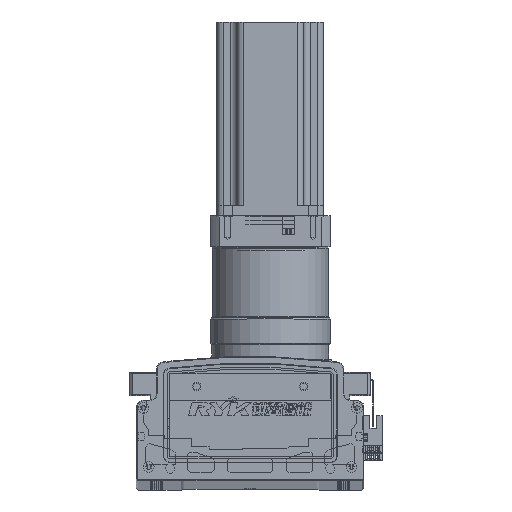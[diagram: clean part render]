
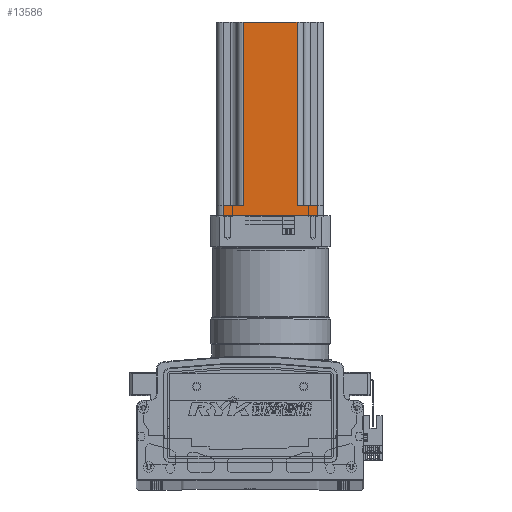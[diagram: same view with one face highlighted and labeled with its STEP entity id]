
A CAD part, top view. The second image highlights one B-rep face of the part: STEP entity #13586.
In plain terms, the highlighted planar face has unit normal (0, 0, 1) as drawn and (0, -1, 0) by its records, which use the part's own axes.
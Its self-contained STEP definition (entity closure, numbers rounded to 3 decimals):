
#13586 = ADVANCED_FACE ( 'NONE', ( #93398 ), #68294, .F. ) ;
#18983 = AXIS2_PLACEMENT_3D ( 'NONE', #68308, #68296, #68332 ) ;
#32212 = ORIENTED_EDGE ( 'NONE', *, *, #107932, .T. ) ;
#32220 = ORIENTED_EDGE ( 'NONE', *, *, #107974, .T. ) ;
#32252 = ORIENTED_EDGE ( 'NONE', *, *, #107946, .F. ) ;
#32297 = ORIENTED_EDGE ( 'NONE', *, *, #107963, .T. ) ;
#32315 = ORIENTED_EDGE ( 'NONE', *, *, #107923, .T. ) ;
#32328 = ORIENTED_EDGE ( 'NONE', *, *, #107935, .F. ) ;
#32332 = ORIENTED_EDGE ( 'NONE', *, *, #107978, .T. ) ;
#32344 = ORIENTED_EDGE ( 'NONE', *, *, #107972, .F. ) ;
#56303 = EDGE_LOOP ( 'NONE', ( #32252, #32212, #32315, #32220, #32328, #32332, #32344, #32297 ) ) ;
#68294 = PLANE ( 'NONE',  #18983 ) ;
#68296 = DIRECTION ( 'NONE',  ( 0., 1., 0. ) ) ;
#68308 = CARTESIAN_POINT ( 'NONE',  ( -87.587, -40.37, 145. ) ) ;
#68332 = DIRECTION ( 'NONE',  ( -1., 0., 0. ) ) ;
#78097 = DIRECTION ( 'NONE',  ( 1., 0., 0. ) ) ;
#78144 = CARTESIAN_POINT ( 'NONE',  ( -87.587, -40.37, 8. ) ) ;
#78213 = CARTESIAN_POINT ( 'NONE',  ( -67.587, -40.37, 145. ) ) ;
#78252 = DIRECTION ( 'NONE',  ( 0., 0., -1. ) ) ;
#78275 = DIRECTION ( 'NONE',  ( 1., 0., 0. ) ) ;
#78288 = CARTESIAN_POINT ( 'NONE',  ( -87.587, -40.37, 145. ) ) ;
#78318 = CARTESIAN_POINT ( 'NONE',  ( -27.587, -40.37, 145. ) ) ;
#78325 = CARTESIAN_POINT ( 'NONE',  ( -12.587, -40.37, 145. ) ) ;
#78328 = DIRECTION ( 'NONE',  ( 0., 0., 1. ) ) ;
#78356 = DIRECTION ( 'NONE',  ( 0., 0., 1. ) ) ;
#78759 = VECTOR ( 'NONE', #83517, 1000. ) ;
#78762 = VECTOR ( 'NONE', #85133, 1000. ) ;
#78813 = LINE ( 'NONE', #82279, #78759 ) ;
#78818 = VECTOR ( 'NONE', #84473, 1000. ) ;
#78839 = LINE ( 'NONE', #84274, #78762 ) ;
#78885 = LINE ( 'NONE', #84468, #78818 ) ;
#78907 = LINE ( 'NONE', #78213, #78912 ) ;
#78912 = VECTOR ( 'NONE', #78252, 1000. ) ;
#78940 = LINE ( 'NONE', #78144, #79030 ) ;
#78964 = LINE ( 'NONE', #78288, #78971 ) ;
#78967 = LINE ( 'NONE', #78325, #78995 ) ;
#78971 = VECTOR ( 'NONE', #78275, 1000. ) ;
#78979 = LINE ( 'NONE', #78318, #79022 ) ;
#78995 = VECTOR ( 'NONE', #78356, 1000. ) ;
#79022 = VECTOR ( 'NONE', #78328, 1000. ) ;
#79030 = VECTOR ( 'NONE', #78097, 1000. ) ;
#82279 = CARTESIAN_POINT ( 'NONE',  ( -82.587, -40.37, 145. ) ) ;
#83517 = DIRECTION ( 'NONE',  ( 0., 0., -1. ) ) ;
#84274 = CARTESIAN_POINT ( 'NONE',  ( -7.587, -40.37, 8. ) ) ;
#84468 = CARTESIAN_POINT ( 'NONE',  ( -87.587, -40.37, 0. ) ) ;
#84473 = DIRECTION ( 'NONE',  ( 1., 0., 0. ) ) ;
#85133 = DIRECTION ( 'NONE',  ( 1., 0., 0. ) ) ;
#90852 = VERTEX_POINT ( 'NONE', #118498 ) ;
#90861 = VERTEX_POINT ( 'NONE', #118559 ) ;
#90863 = VERTEX_POINT ( 'NONE', #118491 ) ;
#90873 = VERTEX_POINT ( 'NONE', #118495 ) ;
#90877 = VERTEX_POINT ( 'NONE', #116742 ) ;
#90882 = VERTEX_POINT ( 'NONE', #116699 ) ;
#90905 = VERTEX_POINT ( 'NONE', #116698 ) ;
#90907 = VERTEX_POINT ( 'NONE', #116694 ) ;
#93398 = FACE_OUTER_BOUND ( 'NONE', #56303, .T. ) ;
#107923 = EDGE_CURVE ( 'NONE', #90852, #90882, #78885, .T. ) ;
#107932 = EDGE_CURVE ( 'NONE', #90861, #90852, #78813, .T. ) ;
#107935 = EDGE_CURVE ( 'NONE', #90873, #90905, #78839, .T. ) ;
#107946 = EDGE_CURVE ( 'NONE', #90861, #90863, #78940, .T. ) ;
#107963 = EDGE_CURVE ( 'NONE', #90907, #90863, #78907, .T. ) ;
#107972 = EDGE_CURVE ( 'NONE', #90907, #90877, #78964, .T. ) ;
#107974 = EDGE_CURVE ( 'NONE', #90882, #90905, #78967, .T. ) ;
#107978 = EDGE_CURVE ( 'NONE', #90873, #90877, #78979, .T. ) ;
#116694 = CARTESIAN_POINT ( 'NONE',  ( -67.587, -40.37, 145. ) ) ;
#116698 = CARTESIAN_POINT ( 'NONE',  ( -12.587, -40.37, 8. ) ) ;
#116699 = CARTESIAN_POINT ( 'NONE',  ( -12.587, -40.37, 0. ) ) ;
#116742 = CARTESIAN_POINT ( 'NONE',  ( -27.587, -40.37, 145. ) ) ;
#118491 = CARTESIAN_POINT ( 'NONE',  ( -67.587, -40.37, 8. ) ) ;
#118495 = CARTESIAN_POINT ( 'NONE',  ( -27.587, -40.37, 8. ) ) ;
#118498 = CARTESIAN_POINT ( 'NONE',  ( -82.587, -40.37, 0. ) ) ;
#118559 = CARTESIAN_POINT ( 'NONE',  ( -82.587, -40.37, 8. ) ) ;
